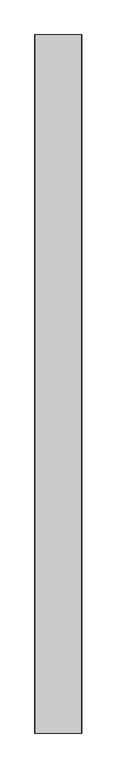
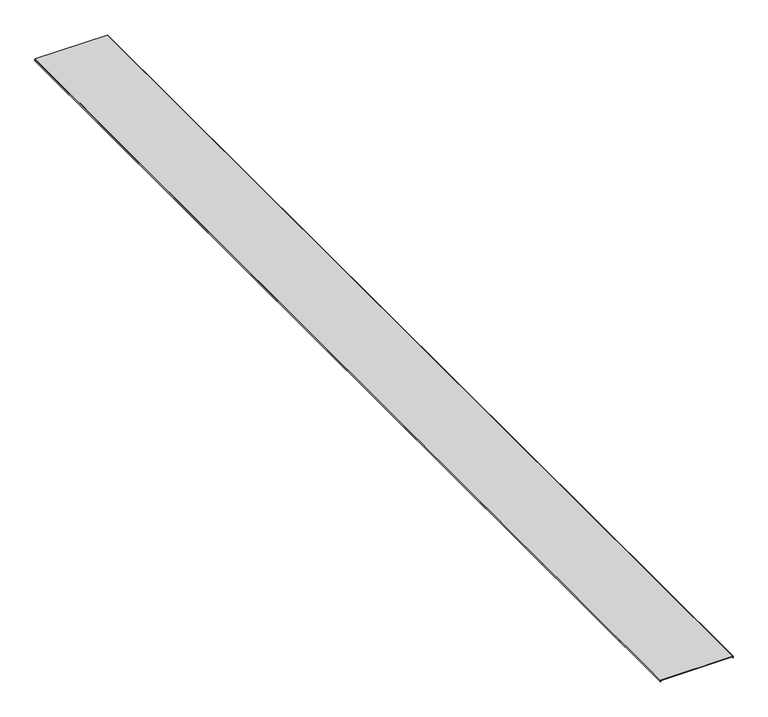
"""IFC4 building model written with IfcOpenShell, lengths in millimetres: proxy geometry, Cable_Tray_Cover_TBPE_Basorplast : Basorplast TBPE 200."""

from ifc_helpers import new_model, si_unit, point, frame, frame_2d, origin, place, context, project, spatial, polyline, circle_curve, trimmed, segment, composite_curve, outline, extrude, source, transform, mapped, element, save


def generic_models_46448a1f(model_context):
    return source(origin(), model_context, "Body", "SweptSolid", [
        extrude(outline(composite_curve([segment(polyline([(-3.7, -100.958063), (-3.7, -99.958063), (0.0, -99.958063), (0.0, 100.0), (-3.7, 100.0), (-3.7, 101.0), (0.2755134, 101.0)]), True, "CONTINUOUS"), segment(trimmed(circle_curve(frame_2d((0.2755134, 99.9755134)), 1.0244866), [point((0.2755134, 101.0))], [point((1.3, 99.9755134))], False, "CARTESIAN"), True, "CONTINUOUS"), segment(polyline([(1.3, 99.9755134), (1.3, -100.3343914)]), True, "CONTINUOUS"), segment(trimmed(circle_curve(frame_2d((0.6763283, -100.3343914)), 0.6236717), [point((1.3, -100.3343914))], [point((0.6763283, -100.958063))], False, "CARTESIAN"), True, "CONTINUOUS"), segment(polyline([(0.6763283, -100.958063), (-3.7, -100.958063)]), True, "CONTINUOUS")], self_intersect=False)), frame((0.0, -3000.0, 0.0), z_axis=(0.0, 1.0, 0.0), x_axis=(0.0, 0.0, 1.0)), (0.0, 0.0, 1.0), 3000.0),
    ])


if __name__ == "__main__":
    model = new_model("IFC4")
    model_context = context("Model", 3, world=origin())
    ifc_project = project(units=[si_unit("LENGTHUNIT", "METRE", prefix="MILLI")], contexts=[model_context])
    site = spatial("IfcSite", under=ifc_project)
    building = spatial("IfcBuilding", under=site)
    placement = place(None, origin())
    generic_models_shape = generic_models_46448a1f(model_context)
    element("IfcBuildingElementProxy", 1, Name="Cable_Tray_Cover_TBPE_Basorplast : Basorplast TBPE 200", ObjectType="Cable_Tray_Cover_TBPE_Basorplast : Basorplast TBPE 200", at=placement, inside=building, context=model_context, shape_type="MappedRepresentation", body=[
        mapped(generic_models_shape, transform((0.0, 0.0, 0.0), x_axis=(1.0, 0.0, 0.0), y_axis=(0.0, 1.0, 0.0), z_axis=(0.0, 0.0, 1.0))),
    ])
    save(model, "model.ifc")
